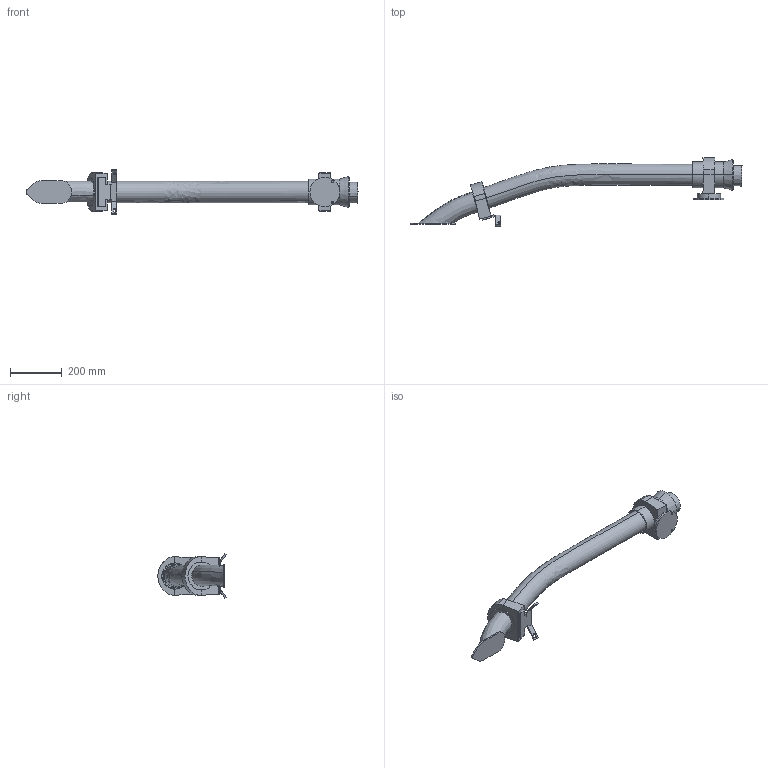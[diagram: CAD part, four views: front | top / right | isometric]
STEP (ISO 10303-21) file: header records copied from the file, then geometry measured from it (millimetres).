
FILE_DESCRIPTION (( 'STEP AP214' ), '1' );
FILE_NAME ('IRB6700-SW6_145-320_IRC5_rev01_LINK04_CABLE.STEP', '2016-01-27T12:19:33', ( 'ABB' ), ( 'ABB' ), 'SwSTEP 2.0', 'SolidWorks 2014', '' );
FILE_SCHEMA (( 'AUTOMOTIVE_DESIGN' ));
Length unit declared in the file: millimetre
Products named in the file (1): IRB6700-SW6_145-320_IRC5_rev01_LINK04_CABLE
Bounding box: 1281.84 x 262.99 x 170.41 mm (x, y, z)
Volume: 7973220.9 mm3; surface area: 525020.7 mm2
Topology: 1 solids, 1 shells, 115 faces, 304 edges, 200 vertices
Faces by surface type: plane 67, cylinder 34, bspline 8, cone 6
Entity records: 23996 total; most frequent: CARTESIAN_POINT 19895, ORIENTED_EDGE 608, DIRECTION 540, EDGE_CURVE 304, VERTEX_POINT 200, VECTOR 192, LINE 192, AXIS2_PLACEMENT_3D 174
